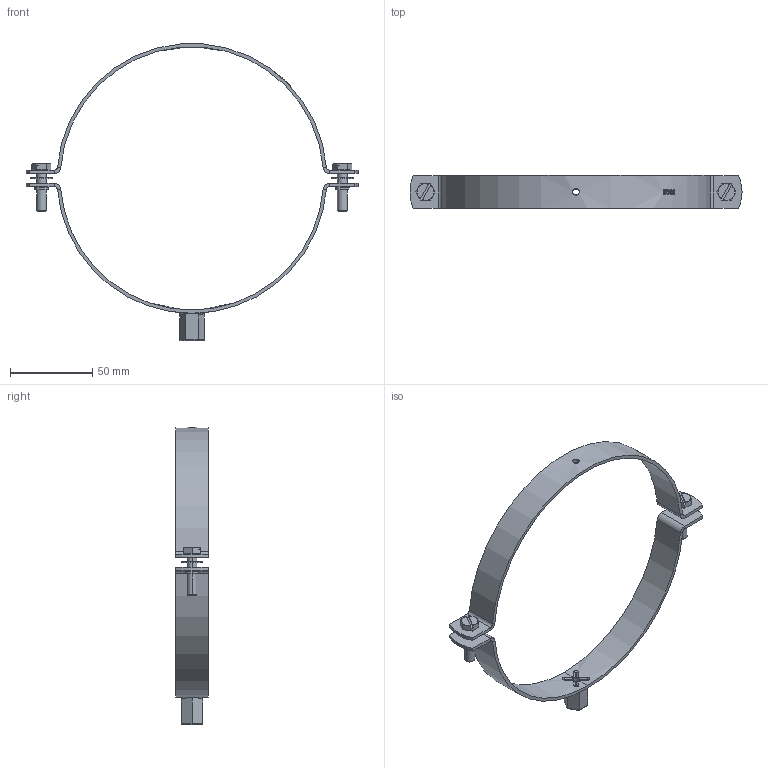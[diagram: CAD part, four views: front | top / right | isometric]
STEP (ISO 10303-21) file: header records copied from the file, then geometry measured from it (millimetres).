
FILE_DESCRIPTION (( 'STEP AP214' ), '1' );
FILE_NAME ('30179160.STEP', '2022-10-27T06:55:37', ( '' ), ( '' ), 'SwSTEP 2.0', 'SolidWorks 2021', '' );
FILE_SCHEMA (( 'AUTOMOTIVE_DESIGN' ));
Length unit declared in the file: millimetre
Products named in the file (7): 8020130160; 30179160; 9519002599; Clamp^8110130160; 8110130160; 9541506025; 9735013060
Assembly tree (8 placements, depth 3):
  30179160
    8110130160
      Clamp^8110130160
      9519002599
    8020130160
    9541506025  x2
    9735013060  x2
Bounding box: 201.8 x 20 x 180.59 mm (x, y, z)
Volume: 26160.9 mm3; surface area: 28474 mm2
Topology: 7 solids, 7 shells, 356 faces, 889 edges, 558 vertices
Faces by surface type: bspline 111, cylinder 102, plane 101, cone 30, torus 12
Entity records: 18527 total; most frequent: CARTESIAN_POINT 11916, ORIENTED_EDGE 1524, DIRECTION 941, EDGE_CURVE 762, VERTEX_POINT 477, B_SPLINE_CURVE_WITH_KNOTS 376, AXIS2_PLACEMENT_3D 362, EDGE_LOOP 329
